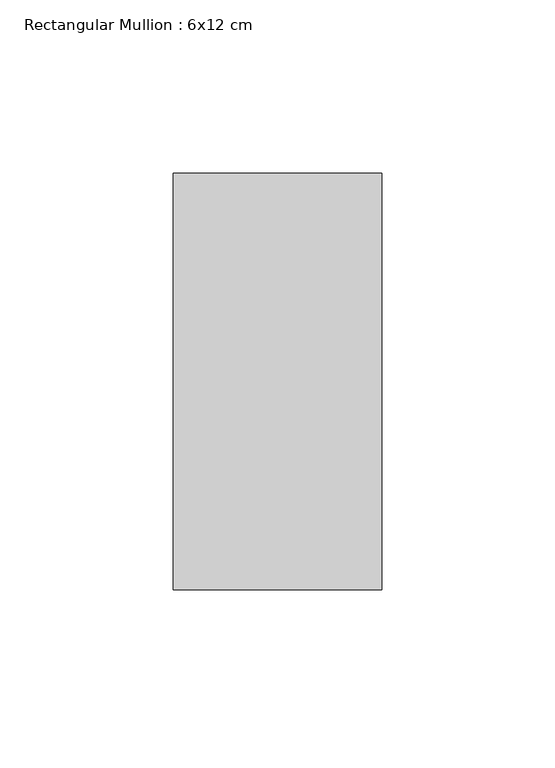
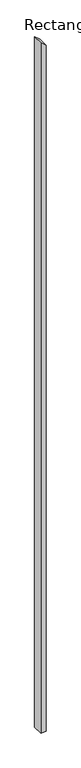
"""IFC4 building model written with IfcOpenShell, lengths in millimetres: member geometry, Rectangular Mullion : 6x12 cm."""

from ifc_helpers import new_model, si_unit, frame, origin, place, context, project, spatial, polyline, outline, extrude, source, transform, mapped, element, save


def rectangular_mullion_6x12_cm_2c5c7af2(model_context):
    return source(origin(), model_context, "Body", "SweptSolid", [
        extrude(outline(polyline([(-105.3653049, 30.0), (-53.3933853, -30.0), (-8302.983338, -30.0), (-8302.983338, 30.0), (-105.3653049, 30.0)])), frame((0.0, 85.0, 0.0), z_axis=(0.0, 1.0, 0.0), x_axis=(0.0, 0.0, 1.0)), (0.0, 0.0, 1.0), 120.0),
    ])


if __name__ == "__main__":
    model = new_model("IFC4")
    model_context = context("Model", 3, world=origin())
    ifc_project = project(units=[si_unit("LENGTHUNIT", "METRE", prefix="MILLI")], contexts=[model_context])
    site = spatial("IfcSite", under=ifc_project)
    building = spatial("IfcBuilding", under=site)
    placement = place(None, origin())
    rectangular_mullion_6x12_cm_shape = rectangular_mullion_6x12_cm_2c5c7af2(model_context)
    element("IfcMember", 1, ObjectType="Rectangular Mullion : 6x12 cm", at=placement, inside=building, context=model_context, shape_type="MappedRepresentation", body=[
        mapped(rectangular_mullion_6x12_cm_shape, transform((0.0, 0.0, 0.0), x_axis=(1.0, 0.0, 0.0), y_axis=(0.0, 1.0, 0.0), z_axis=(0.0, 0.0, 1.0))),
    ])
    save(model, "model.ifc")
